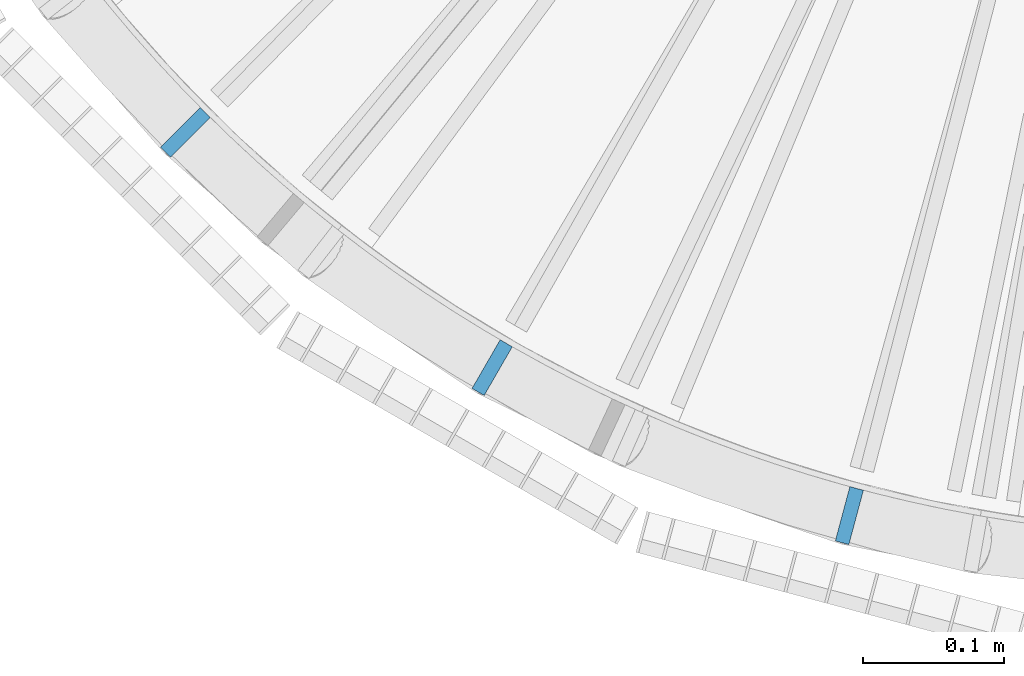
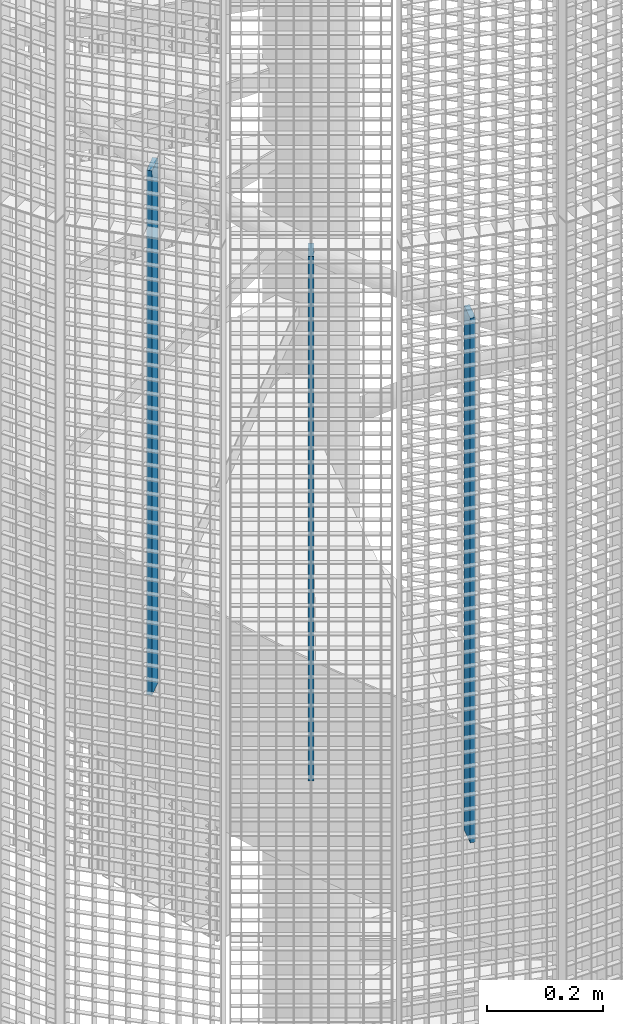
# One storey, part 37 of 1148: 3 columns, 3 elements without a shape of their own.
"""IFC2X3 building model written with IfcOpenShell, lengths in millimetres."""

from ifc_helpers import new_model, si_unit, frame, origin_with_axes, origin_2d_with_axis, place, context, subcontext, project, spatial, rectangle, extrude, material, type_object, element, aggregate, save


model = new_model("IFC2X3")

# Units and contexts
model_context = context("Model", 3, precision=1e-05, world=origin_with_axes())
body_context = subcontext(model_context, "Body", "Model", "MODEL_VIEW")
ifc_project = project(units=[si_unit("LENGTHUNIT", "METRE", prefix="MILLI"), si_unit("AREAUNIT", "SQUARE_METRE"), si_unit("VOLUMEUNIT", "CUBIC_METRE"), si_unit("MASSUNIT", "GRAM", prefix="KILO"), si_unit("TIMEUNIT", "SECOND"), si_unit("PLANEANGLEUNIT", "RADIAN"), si_unit("SOLIDANGLEUNIT", "STERADIAN"), si_unit("THERMODYNAMICTEMPERATUREUNIT", "DEGREE_CELSIUS"), si_unit("LUMINOUSINTENSITYUNIT", "LUMEN")], contexts=[model_context])

# Site, building, storey
site_placement = place(None, origin_with_axes())
site = spatial("IfcSite", under=ifc_project, at=site_placement, Name="Undefined", CompositionType="ELEMENT")
building_placement = place(site_placement, origin_with_axes())
building = spatial("IfcBuilding", under=site, at=building_placement, Name="Undefined", CompositionType="ELEMENT")
storey_placement = place(building_placement, origin_with_axes())
storey = spatial("IfcBuildingStorey", under=building, at=storey_placement, Name="Undefined", CompositionType="ELEMENT", Elevation=0.0)

# Assembly, column
assembly_1_placement = place(storey_placement, origin_with_axes())
assembly_1 = element("IfcElementAssembly", 1, at=assembly_1_placement, inside=storey, Name="MONTANT", AssemblyPlace="NOTDEFINED", PredefinedType="NOTDEFINED")
ifc_material = material(Name="STEEL/S235JR")
column_type = type_object("IfcColumnType", Name="PL10*40", PredefinedType="NOTDEFINED")
column_1_placement = place(assembly_1_placement, frame((21072.9999999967, -912.790775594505, 1854.24), z_axis=(0.0, 0.0, 1.0), x_axis=(0.49999999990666, 0.866025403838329, 0.0)))
column_1 = element("IfcColumn", 2, at=column_1_placement, type_object=column_type, material=ifc_material, Name="MONTANT", context=body_context, shape_type="SweptSolid", body=[
    extrude(rectangle(XDim=10.0, YDim=40.0, at=origin_2d_with_axis()), frame((0.0, 0.0, 1100.0), z_axis=(0.0, 0.0, -1.0), x_axis=(0.0, 1.0, 0.0)), (0.0, 0.0, 1.0), 1100.0),
])
aggregate(assembly_1, [column_1])

assembly_2_placement = place(storey_placement, origin_with_axes())
assembly_2 = element("IfcElementAssembly", 3, at=assembly_2_placement, inside=storey, Name="MONTANT", AssemblyPlace="NOTDEFINED", PredefinedType="NOTDEFINED")
column_2_placement = place(assembly_2_placement, frame((20854.7094526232, -745.290547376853, 2008.76), z_axis=(0.0, 0.0, 1.0), x_axis=(0.707106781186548, 0.707106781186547, 0.0)))
column_2 = element("IfcColumn", 4, at=column_2_placement, type_object=column_type, material=ifc_material, Name="MONTANT", context=body_context, shape_type="SweptSolid", body=[
    extrude(rectangle(XDim=10.0, YDim=40.0, at=origin_2d_with_axis()), frame((0.0, 0.0, 1100.0), z_axis=(0.0, 0.0, -1.0), x_axis=(0.0, 1.0, 0.0)), (0.0, 0.0, 1.0), 1100.0),
])
aggregate(assembly_2, [column_2])

assembly_3_placement = place(storey_placement, origin_with_axes())
assembly_3 = element("IfcElementAssembly", 5, at=assembly_3_placement, inside=storey, Name="MONTANT", AssemblyPlace="NOTDEFINED", PredefinedType="NOTDEFINED")
column_3_placement = place(assembly_3_placement, frame((21327.2047264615, -1018.08582091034, 1699.72), z_axis=(0.0, 0.0, 1.0), x_axis=(0.258819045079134, 0.965925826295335, 0.0)))
column_3 = element("IfcColumn", 6, at=column_3_placement, type_object=column_type, material=ifc_material, Name="MONTANT", context=body_context, shape_type="SweptSolid", body=[
    extrude(rectangle(XDim=10.0, YDim=40.0, at=origin_2d_with_axis()), frame((0.0, 0.0, 1100.0), z_axis=(0.0, 0.0, -1.0), x_axis=(0.0, 1.0, 0.0)), (0.0, 0.0, 1.0), 1100.0),
])
aggregate(assembly_3, [column_3])

save(model, "model.ifc")
